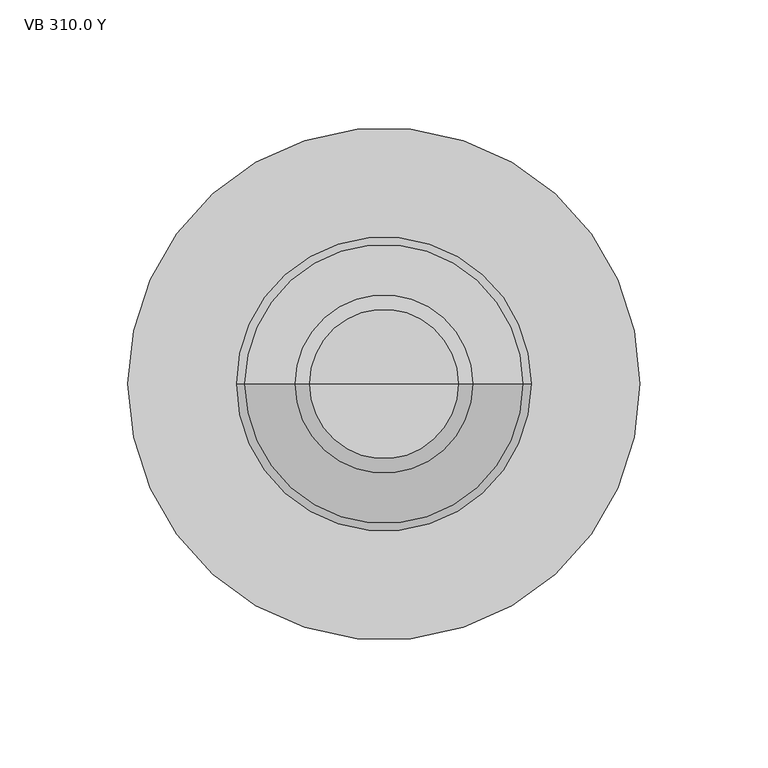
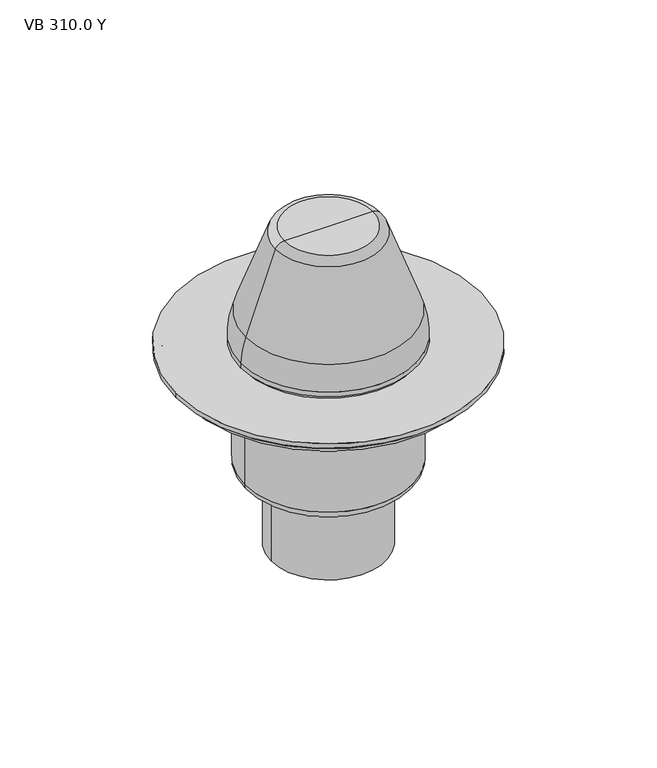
"""IFC4 building model written with IfcOpenShell, lengths in millimetres: flow terminal geometry, BIMLIB_Воронка_Балконная_Fachmann_310СВертикальнымВыпуском : VB 310.0 Y."""

from ifc_helpers import new_model, si_unit, point, frame, origin, origin_with_axes, origin_2d, place, context, project, spatial, polyline, circle_curve, ellipse_curve, trimmed, segment, composite_curve, outline, extrude, source, transform, mapped, element, save
from ifc_brep_helpers import plane_surface, cylinder_surface, revolved_surface, advanced_brep


def vb_310_0_y_c46541a9(model_context):
    return source(origin(), model_context, "Body", "SolidModel", [
        advanced_brep(
        [(-55.0, 0.0, 6.0), (55.0, 0.0, 6.0), (55.0, 0.0, 3.0), (-55.0, 0.0, 3.0), (-57.5, 0.0, 6.0), (57.5, 0.0, 6.0), (-57.5, 0.0, 8.9740579), (57.5, 0.0, 8.9740579), (0.0, 0.0, 3.0), (-54.484631, 0.0, 26.075065), (54.484631, 0.0, 26.075065), (-34.8385894, 0.0, 80.0521209), (34.8385894, 0.0, 80.0521209), (-29.2004337, 0.0, 84.0), (29.2004337, 0.0, 84.0), (0.0, 0.0, 84.0)],
        [
            (0, 1, circle_curve(frame((0.0, 0.0, 6.0), z_axis=(0.0, 0.0, -1.0), x_axis=(1.0, 0.0, 0.0)), 55.0)),
            (1, 2),
            (2, 3, circle_curve(frame((0.0, 0.0, 3.0), z_axis=(0.0, 0.0, 1.0), x_axis=(1.0, 0.0, 0.0)), 55.0)),
            (3, 0),
            (1, 0, circle_curve(frame((0.0, 0.0, 6.0), z_axis=(0.0, 0.0, -1.0), x_axis=(1.0, 0.0, 0.0)), 55.0)),
            (3, 2, circle_curve(frame((0.0, 0.0, 3.0), z_axis=(0.0, 0.0, 1.0), x_axis=(1.0, 0.0, 0.0)), 55.0)),
            (4, 5, circle_curve(frame((0.0, 0.0, 6.0), z_axis=(0.0, 0.0, -1.0), x_axis=(1.0, 0.0, 0.0)), 57.5)),
            (5, 1),
            (0, 4),
            (5, 4, circle_curve(frame((0.0, 0.0, 6.0), z_axis=(0.0, 0.0, -1.0), x_axis=(1.0, 0.0, 0.0)), 57.5)),
            (6, 7, circle_curve(frame((0.0, 0.0, 8.9740579), z_axis=(0.0, 0.0, -1.0), x_axis=(1.0, 0.0, 0.0)), 57.5)),
            (7, 5),
            (4, 6),
            (7, 6, circle_curve(frame((0.0, 0.0, 8.9740579), z_axis=(0.0, 0.0, -1.0), x_axis=(1.0, 0.0, 0.0)), 57.5)),
            (2, 8),
            (8, 3),
            (9, 10, circle_curve(frame((0.0, 0.0, 26.075065), z_axis=(0.0, 0.0, -1.0), x_axis=(1.0, 0.0, 0.0)), 54.484631)),
            (10, 7, circle_curve(frame((7.5, 0.0, 8.9740579), z_axis=(0.0, 1.0, 0.0), x_axis=(1.0, 0.0, 0.0)), 50.0)),
            (6, 9, circle_curve(frame((-7.5, 0.0, 8.9740579), z_axis=(0.0, 1.0, 0.0), x_axis=(-1.0, 0.0, 0.0)), 50.0)),
            (10, 9, circle_curve(frame((0.0, 0.0, 26.075065), z_axis=(0.0, 0.0, -1.0), x_axis=(1.0, 0.0, 0.0)), 54.484631)),
            (11, 12, circle_curve(frame((0.0, 0.0, 80.0521209), z_axis=(0.0, 0.0, -1.0), x_axis=(1.0, 0.0, 0.0)), 34.8385894)),
            (12, 10),
            (9, 11),
            (12, 11, circle_curve(frame((0.0, 0.0, 80.0521209), z_axis=(0.0, 0.0, -1.0), x_axis=(1.0, 0.0, 0.0)), 34.8385894)),
            (13, 14, circle_curve(frame((0.0, 0.0, 84.0), z_axis=(0.0, 0.0, -1.0), x_axis=(1.0, 0.0, 0.0)), 29.2004337)),
            (14, 12, circle_curve(frame((29.2004337, 0.0, 78.0), z_axis=(0.0, 1.0, 0.0), x_axis=(1.0, 0.0, 0.0)), 6.0)),
            (11, 13, circle_curve(frame((-29.2004337, 0.0, 78.0), z_axis=(0.0, 1.0, 0.0), x_axis=(-1.0, 0.0, 0.0)), 6.0)),
            (14, 13, circle_curve(frame((0.0, 0.0, 84.0), z_axis=(0.0, 0.0, -1.0), x_axis=(1.0, 0.0, 0.0)), 29.2004337)),
            (15, 14),
            (13, 15),
        ],
        [
            cylinder_surface(frame((0.0, 0.0, 2214.3150031), z_axis=(0.0, 0.0, 1.0), x_axis=(1.0, 0.0, 0.0)), 55.0),
            plane_surface(frame((0.0, 0.0, 6.0), z_axis=(0.0, 0.0, -1.0), x_axis=(1.0, 0.0, 0.0))),
            cylinder_surface(frame((0.0, 0.0, 2214.3150031), z_axis=(0.0, 0.0, 1.0), x_axis=(1.0, 0.0, 0.0)), 57.5),
            plane_surface(frame((0.0, 0.0, 3.0), z_axis=(0.0, 0.0, -1.0), x_axis=(1.0, 0.0, 0.0))),
            revolved_surface(trimmed(ellipse_curve(frame((7.5, 0.0, 8.9740579), z_axis=(0.0, -1.0, 0.0), x_axis=(1.0, 0.0, 0.0)), 50.0, 50.0), [point((57.5, 0.0, 8.9740579))], [point((54.484631, 0.0, 26.075065))], True, "CARTESIAN"), (0.0, 0.0, 2214.3150031), (0.0, 0.0, 1.0)),
            revolved_surface(polyline([(54.484631, 0.0, 26.075065), (34.8385894, 0.0, 80.0521209)]), (0.0, 0.0, 2214.3150031), (0.0, 0.0, 1.0)),
            revolved_surface(trimmed(ellipse_curve(frame((29.2004337, 0.0, 78.0), z_axis=(0.0, -1.0, 0.0), x_axis=(1.0, 0.0, 0.0)), 6.0, 6.0), [point((34.8385894, 0.0, 80.0521209))], [point((29.2004337, 0.0, 84.0))], True, "CARTESIAN"), (0.0, 0.0, 2214.3150031), (0.0, 0.0, 1.0)),
            plane_surface(frame((0.0, 0.0, 84.0), z_axis=(0.0, 0.0, 1.0), x_axis=(1.0, 0.0, 0.0))),
        ],
        [
            (0, [[1, 2, 3, 4]]),
            (0, [[5, -4, 6, -2]]),
            (1, [[7, 8, -1, 9]]),
            (1, [[10, -9, -5, -8]]),
            (2, [[11, 12, -7, 13]]),
            (2, [[14, -13, -10, -12]]),
            (3, [[-3, 15, 16]]),
            (3, [[-6, -16, -15]]),
            (4, [[17, 18, -11, 19]]),
            (4, [[20, -19, -14, -18]]),
            (5, [[21, 22, -17, 23]]),
            (5, [[24, -23, -20, -22]]),
            (6, [[25, 26, -21, 27]]),
            (6, [[28, -27, -24, -26]]),
            (7, [[29, -25, 30]]),
            (7, [[-30, -28, -29]]),
        ],
    ),
        extrude(outline(composite_curve([segment(trimmed(circle_curve(origin_2d(), 100.0), [point((-100.0, 0.0))], [point((100.0, 0.0))], False, "CARTESIAN"), True, "CONTINUOUS"), segment(trimmed(circle_curve(origin_2d(), 100.0), [point((100.0, 0.0))], [point((-100.0, 0.0))], False, "CARTESIAN"), True, "CONTINUOUS")], self_intersect=False)), origin_with_axes(), (0.0, 0.0, 1.0), 3.0),
        advanced_brep(
        [(-55.0, 0.0, -76.0), (55.0, 0.0, -76.0), (49.0, 0.0, -82.0), (-49.0, 0.0, -82.0), (-55.0, 0.0, -24.0), (55.0, 0.0, -24.0), (-58.0, 0.0, -24.0), (58.0, 0.0, -24.0), (-95.0, 0.0, 0.0), (95.0, 0.0, 0.0), (95.0, 0.0, -4.0), (-95.0, 0.0, -4.0), (0.0, 0.0, 0.0), (0.0, 0.0, -82.0), (-58.0, 0.0, -7.0), (58.0, 0.0, -7.0), (-92.0, 0.0, -7.0), (92.0, 0.0, -7.0)],
        [
            (0, 1, circle_curve(frame((0.0, 0.0, -76.0), z_axis=(0.0, 0.0, -1.0), x_axis=(1.0, 0.0, 0.0)), 55.0)),
            (1, 2, circle_curve(frame((49.0, 0.0, -76.0), z_axis=(0.0, 1.0, 0.0), x_axis=(1.0, 0.0, 0.0)), 6.0)),
            (2, 3, circle_curve(frame((0.0, 0.0, -82.0), z_axis=(0.0, 0.0, 1.0), x_axis=(1.0, 0.0, 0.0)), 49.0)),
            (3, 0, circle_curve(frame((-49.0, 0.0, -76.0), z_axis=(0.0, 1.0, 0.0), x_axis=(-1.0, 0.0, 0.0)), 6.0)),
            (1, 0, circle_curve(frame((0.0, 0.0, -76.0), z_axis=(0.0, 0.0, -1.0), x_axis=(1.0, 0.0, 0.0)), 55.0)),
            (3, 2, circle_curve(frame((0.0, 0.0, -82.0), z_axis=(0.0, 0.0, 1.0), x_axis=(1.0, 0.0, 0.0)), 49.0)),
            (4, 5, circle_curve(frame((0.0, 0.0, -24.0), z_axis=(0.0, 0.0, -1.0), x_axis=(1.0, 0.0, 0.0)), 55.0)),
            (5, 1),
            (0, 4),
            (5, 4, circle_curve(frame((0.0, 0.0, -24.0), z_axis=(0.0, 0.0, -1.0), x_axis=(1.0, 0.0, 0.0)), 55.0)),
            (6, 7, circle_curve(frame((0.0, 0.0, -24.0), z_axis=(0.0, 0.0, -1.0), x_axis=(1.0, 0.0, 0.0)), 58.0)),
            (7, 5),
            (4, 6),
            (7, 6, circle_curve(frame((0.0, 0.0, -24.0), z_axis=(0.0, 0.0, -1.0), x_axis=(1.0, 0.0, 0.0)), 58.0)),
            (8, 9, circle_curve(frame((0.0, 0.0, 0.0), z_axis=(0.0, 0.0, -1.0), x_axis=(1.0, 0.0, 0.0)), 95.0)),
            (9, 10),
            (10, 11, circle_curve(frame((0.0, 0.0, -4.0), z_axis=(0.0, 0.0, 1.0), x_axis=(1.0, 0.0, 0.0)), 95.0)),
            (11, 8),
            (9, 8, circle_curve(frame((0.0, 0.0, 0.0), z_axis=(0.0, 0.0, -1.0), x_axis=(1.0, 0.0, 0.0)), 95.0)),
            (11, 10, circle_curve(frame((0.0, 0.0, -4.0), z_axis=(0.0, 0.0, 1.0), x_axis=(1.0, 0.0, 0.0)), 95.0)),
            (12, 9),
            (8, 12),
            (2, 13),
            (13, 3),
            (14, 15, circle_curve(frame((0.0, 0.0, -7.0), z_axis=(0.0, 0.0, -1.0), x_axis=(1.0, 0.0, 0.0)), 58.0)),
            (15, 7),
            (6, 14),
            (15, 14, circle_curve(frame((0.0, 0.0, -7.0), z_axis=(0.0, 0.0, -1.0), x_axis=(1.0, 0.0, 0.0)), 58.0)),
            (16, 17, circle_curve(frame((0.0, 0.0, -7.0), z_axis=(0.0, 0.0, -1.0), x_axis=(1.0, 0.0, 0.0)), 92.0)),
            (17, 15),
            (14, 16),
            (17, 16, circle_curve(frame((0.0, 0.0, -7.0), z_axis=(0.0, 0.0, -1.0), x_axis=(1.0, 0.0, 0.0)), 92.0)),
            (10, 17, circle_curve(frame((92.0, 0.0, -4.0), z_axis=(0.0, 1.0, 0.0), x_axis=(1.0, 0.0, 0.0)), 3.0)),
            (16, 11, circle_curve(frame((-92.0, 0.0, -4.0), z_axis=(0.0, 1.0, 0.0), x_axis=(-1.0, 0.0, 0.0)), 3.0)),
        ],
        [
            revolved_surface(trimmed(ellipse_curve(frame((49.0, 0.0, -76.0), z_axis=(0.0, -1.0, 0.0), x_axis=(1.0, 0.0, 0.0)), 6.0, 6.0), [point((49.0, 0.0, -82.0))], [point((55.0, 0.0, -76.0))], True, "CARTESIAN"), (0.0, 0.0, 2214.3150031), (0.0, 0.0, 1.0)),
            cylinder_surface(frame((0.0, 0.0, 2214.3150031), z_axis=(0.0, 0.0, 1.0), x_axis=(1.0, 0.0, 0.0)), 55.0),
            plane_surface(frame((0.0, 0.0, -24.0), z_axis=(0.0, 0.0, -1.0), x_axis=(1.0, 0.0, 0.0))),
            cylinder_surface(frame((0.0, 0.0, 2214.3150031), z_axis=(0.0, 0.0, 1.0), x_axis=(1.0, 0.0, 0.0)), 95.0),
            plane_surface(origin_with_axes()),
            plane_surface(frame((0.0, 0.0, -82.0), z_axis=(0.0, 0.0, -1.0), x_axis=(1.0, 0.0, 0.0))),
            cylinder_surface(frame((0.0, 0.0, 2214.3150031), z_axis=(0.0, 0.0, 1.0), x_axis=(1.0, 0.0, 0.0)), 58.0),
            plane_surface(frame((0.0, 0.0, -7.0), z_axis=(0.0, 0.0, -1.0), x_axis=(1.0, 0.0, 0.0))),
            revolved_surface(trimmed(ellipse_curve(frame((92.0, 0.0, -4.0), z_axis=(0.0, -1.0, 0.0), x_axis=(1.0, 0.0, 0.0)), 3.0, 3.0), [point((92.0, 0.0, -7.0))], [point((95.0, 0.0, -4.0))], True, "CARTESIAN"), (0.0, 0.0, 2214.3150031), (0.0, 0.0, 1.0)),
        ],
        [
            (0, [[1, 2, 3, 4]]),
            (0, [[5, -4, 6, -2]]),
            (1, [[7, 8, -1, 9]]),
            (1, [[10, -9, -5, -8]]),
            (2, [[11, 12, -7, 13]]),
            (2, [[14, -13, -10, -12]]),
            (3, [[15, 16, 17, 18]]),
            (3, [[19, -18, 20, -16]]),
            (4, [[21, -15, 22]]),
            (4, [[-22, -19, -21]]),
            (5, [[-3, 23, 24]]),
            (5, [[-6, -24, -23]]),
            (6, [[25, 26, -11, 27]]),
            (6, [[28, -27, -14, -26]]),
            (7, [[29, 30, -25, 31]]),
            (7, [[32, -31, -28, -30]]),
            (8, [[-17, 33, -29, 34]]),
            (8, [[-20, -34, -32, -33]]),
        ],
    ),
        extrude(outline(composite_curve([segment(trimmed(circle_curve(origin_2d(), 25.0), [point((25.0, 0.0))], [point((-25.0, 0.0))], False, "CARTESIAN"), True, "CONTINUOUS"), segment(trimmed(circle_curve(origin_2d(), 25.0), [point((-25.0, 0.0))], [point((25.0, 0.0))], False, "CARTESIAN"), True, "CONTINUOUS")], self_intersect=False), holes=[composite_curve([segment(trimmed(circle_curve(origin_2d(), 22.0), [point((22.0, 0.0))], [point((-22.0, 0.0))], True, "CARTESIAN"), True, "CONTINUOUS"), segment(trimmed(circle_curve(origin_2d(), 22.0), [point((-22.0, 0.0))], [point((22.0, 0.0))], True, "CARTESIAN"), True, "CONTINUOUS")], self_intersect=False)]), frame((0.0, 0.0, -135.0), z_axis=(0.0, 0.0, 1.0), x_axis=(1.0, 0.0, 0.0)), (0.0, 0.0, 1.0), 53.0),
        extrude(outline(composite_curve([segment(trimmed(circle_curve(origin_2d(), 37.5), [point((37.5, 0.0))], [point((-37.5, 0.0))], False, "CARTESIAN"), True, "CONTINUOUS"), segment(trimmed(circle_curve(origin_2d(), 37.5), [point((-37.5, 0.0))], [point((37.5, 0.0))], False, "CARTESIAN"), True, "CONTINUOUS")], self_intersect=False), holes=[composite_curve([segment(trimmed(circle_curve(origin_2d(), 34.5), [point((34.5, 0.0))], [point((-34.5, 0.0))], True, "CARTESIAN"), True, "CONTINUOUS"), segment(trimmed(circle_curve(origin_2d(), 34.5), [point((-34.5, 0.0))], [point((34.5, 0.0))], True, "CARTESIAN"), True, "CONTINUOUS")], self_intersect=False)]), frame((0.0, 0.0, -135.0), z_axis=(0.0, 0.0, 1.0), x_axis=(1.0, 0.0, 0.0)), (0.0, 0.0, 1.0), 53.0),
    ])


if __name__ == "__main__":
    model = new_model("IFC4")
    model_context = context("Model", 3, world=origin())
    ifc_project = project(units=[si_unit("LENGTHUNIT", "METRE", prefix="MILLI")], contexts=[model_context])
    site = spatial("IfcSite", under=ifc_project)
    building = spatial("IfcBuilding", under=site)
    placement = place(None, origin())
    vb_310_0_y_shape = vb_310_0_y_c46541a9(model_context)
    element("IfcFlowTerminal", 1, ObjectType="BIMLIB_Воронка_Балконная_Fachmann_310СВертикальнымВыпуском : VB 310.0 Y", at=placement, inside=building, context=model_context, shape_type="MappedRepresentation", body=[
        mapped(vb_310_0_y_shape, transform((0.0, 0.0, 0.0), x_axis=(1.0, 0.0, 0.0), y_axis=(0.0, 1.0, 0.0), z_axis=(0.0, 0.0, 1.0))),
    ])
    save(model, "model.ifc")
